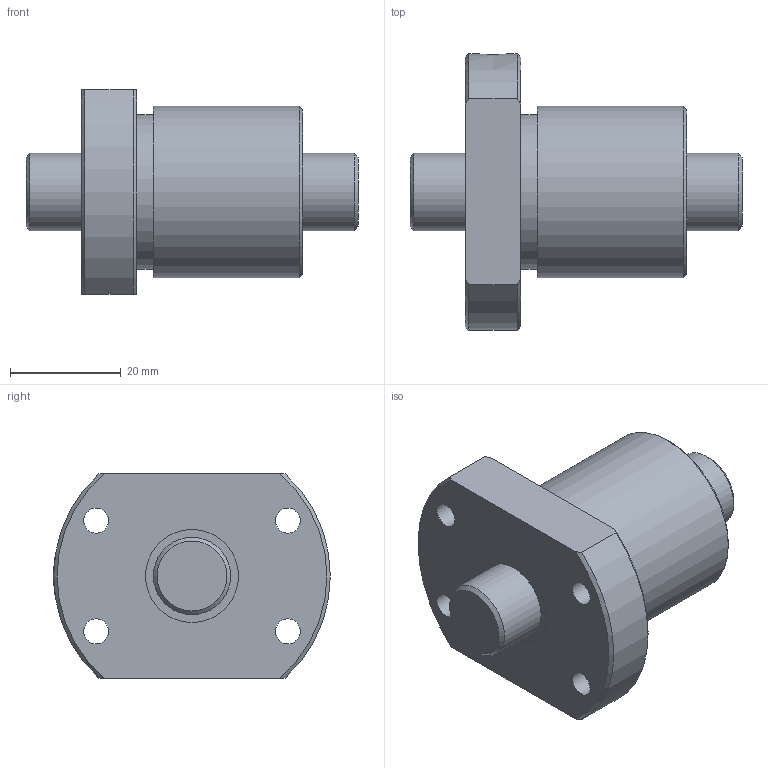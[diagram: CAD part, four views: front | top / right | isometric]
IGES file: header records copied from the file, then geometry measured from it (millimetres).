
Start section: Data from Parasolid IGES Translator 26.0.171, Copyright(c) 2006 Siemens PLM Software. All Rights Reserved.
Global section: file name: BTK1404V-3.6ZZ+60LC7T_000.igs; native system: By Siemens PLM Incorporated; preprocessor: XPlus GENERIC/IGES 26.0.171; author: Noname; organization: Noname; date: 20250116.075550; units: millimetre
Bounding box: 60 x 50 x 37 mm (x, y, z)
Surface area: 12950.9 mm2 (no closed solid volume)
Topology: 0 solids, 0 shells, 31 faces, 136 edges, 119 vertices
Faces by surface type: revolution 21, extrusion 10
